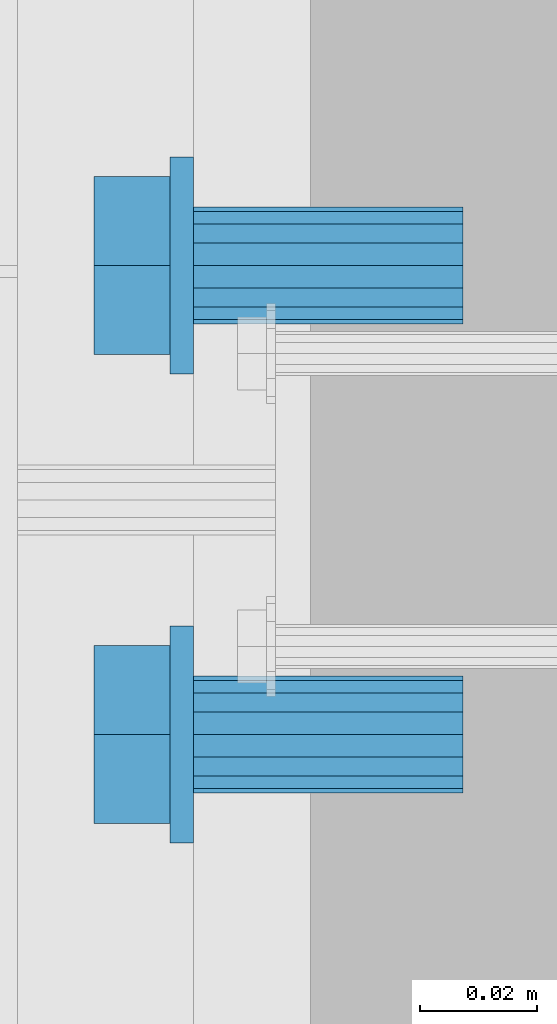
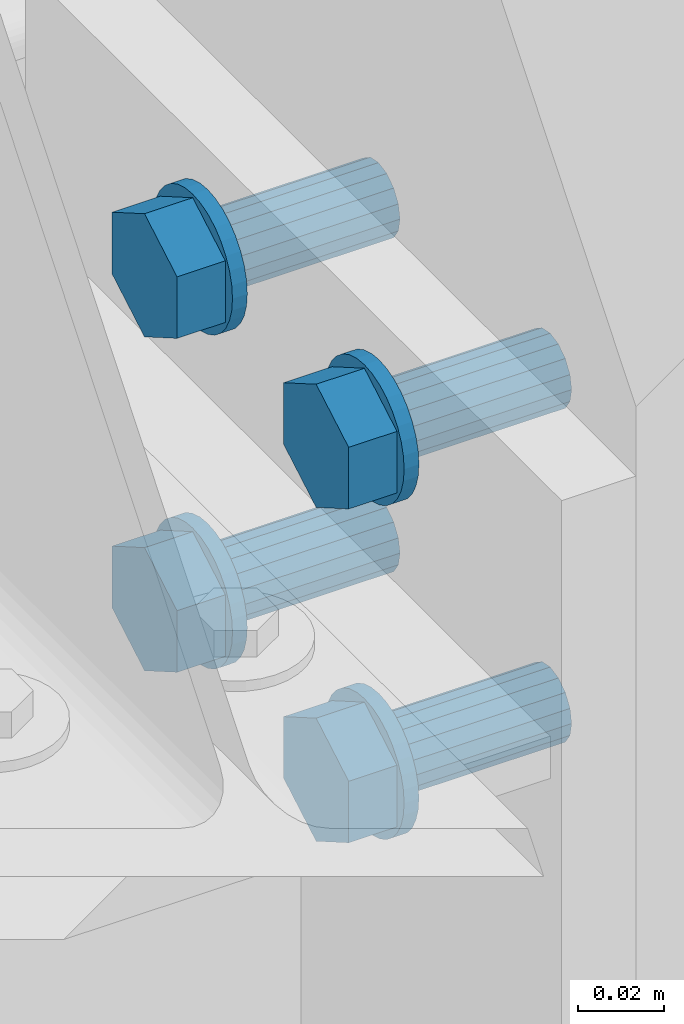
# One storey, part 222 of 410: 4 mechanical fasteners.
"""IFC2X3 building model written with IfcOpenShell, lengths in millimetres."""

from ifc_helpers import new_model, entity, si_unit, converted_unit, origin_with_axes, place, context, project, spatial, faceted_brep, element, save


model = new_model("IFC2X3")

# Units and contexts
model_context = context("Model", 3, precision=1e-09, world=origin_with_axes())
ifc_project = project(units=[si_unit("LENGTHUNIT", "METRE", prefix="MILLI"), si_unit("AREAUNIT", "SQUARE_METRE"), si_unit("VOLUMEUNIT", "CUBIC_METRE"), converted_unit("PLANEANGLEUNIT", "DEGREE", entity("IfcPlaneAngleMeasure", 0.01745329), si_unit("PLANEANGLEUNIT", "RADIAN"), dimensions=[0, 0, 0, 0, 0, 0, 0])], contexts=[model_context])

# Site, building, storey
site_placement = place(None, origin_with_axes())
site = spatial("IfcSite", under=ifc_project, at=site_placement, Name="mKR Teilneubau & Sanierung BA1 - Ostfildern", CompositionType="ELEMENT")
building_placement = place(site_placement, origin_with_axes())
building = spatial("IfcBuilding", under=site, at=building_placement, Name="Struktur 1", CompositionType="ELEMENT")
storey_placement = place(building_placement, origin_with_axes())
storey = spatial("IfcBuildingStorey", under=building, at=storey_placement, Name="Default Storey", CompositionType="ELEMENT", Elevation=0.0)

# Mechanical fasteners
mechanical_fastener_1_placement = place(None, origin_with_axes())
element("IfcMechanicalFastener", 1, at=mechanical_fastener_1_placement, inside=storey, ObjectType="-", NominalDiameter=20.0, NominalLength=50.0, context=model_context, shape_type="Brep", body=[
    faceted_brep([(-1729.0, 17038.5, 7260.0), (-1725.0, 17038.5, 7260.0), (-1725.0, 17038.144527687, 7256.390829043), (-1729.0, 17038.144527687, 7256.390829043), (-1725.0, 17037.091771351, 7252.920356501), (-1729.0, 17037.091771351, 7252.920356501), (-1725.0, 17035.382187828, 7249.721950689), (-1729.0, 17035.382187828, 7249.721950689), (-1725.0, 17033.081475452, 7246.918524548), (-1729.0, 17033.081475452, 7246.918524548), (-1725.0, 17030.278049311, 7244.617812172), (-1729.0, 17030.278049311, 7244.617812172), (-1725.0, 17027.079643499, 7242.908228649), (-1729.0, 17027.079643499, 7242.908228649), (-1725.0, 17023.609170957, 7241.855472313), (-1729.0, 17023.609170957, 7241.855472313), (-1725.0, 17020.0, 7241.5), (-1729.0, 17020.0, 7241.5), (-1725.0, 17016.390829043, 7241.855472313), (-1729.0, 17016.390829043, 7241.855472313), (-1725.0, 17012.920356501, 7242.908228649), (-1729.0, 17012.920356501, 7242.908228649), (-1725.0, 17009.721950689, 7244.617812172), (-1729.0, 17009.721950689, 7244.617812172), (-1725.0, 17006.918524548, 7246.918524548), (-1729.0, 17006.918524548, 7246.918524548), (-1725.0, 17004.617812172, 7249.721950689), (-1729.0, 17004.617812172, 7249.721950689), (-1725.0, 17002.908228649, 7252.920356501), (-1729.0, 17002.908228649, 7252.920356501), (-1725.0, 17001.855472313, 7256.390829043), (-1729.0, 17001.855472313, 7256.390829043), (-1725.0, 17001.5, 7260.0), (-1729.0, 17001.5, 7260.0), (-1725.0, 17001.855472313, 7263.609170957), (-1729.0, 17001.855472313, 7263.609170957), (-1725.0, 17002.908228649, 7267.079643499), (-1729.0, 17002.908228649, 7267.079643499), (-1725.0, 17004.617812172, 7270.278049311), (-1729.0, 17004.617812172, 7270.278049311), (-1725.0, 17006.918524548, 7273.081475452), (-1729.0, 17006.918524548, 7273.081475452), (-1725.0, 17009.721950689, 7275.382187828), (-1729.0, 17009.721950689, 7275.382187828), (-1725.0, 17012.920356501, 7277.091771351), (-1729.0, 17012.920356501, 7277.091771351), (-1725.0, 17016.390829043, 7278.144527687), (-1729.0, 17016.390829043, 7278.144527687), (-1725.0, 17020.0, 7278.5), (-1729.0, 17020.0, 7278.5), (-1725.0, 17023.609170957, 7278.144527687), (-1729.0, 17023.609170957, 7278.144527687), (-1725.0, 17027.079643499, 7277.091771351), (-1729.0, 17027.079643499, 7277.091771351), (-1725.0, 17030.278049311, 7275.382187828), (-1729.0, 17030.278049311, 7275.382187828), (-1725.0, 17033.081475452, 7273.081475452), (-1729.0, 17033.081475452, 7273.081475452), (-1725.0, 17035.382187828, 7270.278049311), (-1729.0, 17035.382187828, 7270.278049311), (-1725.0, 17037.091771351, 7267.079643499), (-1729.0, 17037.091771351, 7267.079643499), (-1725.0, 17038.144527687, 7263.609170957), (-1729.0, 17038.144527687, 7263.609170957)], [[[0, 1, 2, 3]], [[3, 2, 4, 5]], [[5, 4, 6, 7]], [[7, 6, 8, 9]], [[9, 8, 10, 11]], [[11, 10, 12, 13]], [[13, 12, 14, 15]], [[15, 14, 16, 17]], [[17, 16, 18, 19]], [[19, 18, 20, 21]], [[21, 20, 22, 23]], [[23, 22, 24, 25]], [[25, 24, 26, 27]], [[27, 26, 28, 29]], [[29, 28, 30, 31]], [[31, 30, 32, 33]], [[33, 32, 34, 35]], [[35, 34, 36, 37]], [[37, 36, 38, 39]], [[39, 38, 40, 41]], [[41, 40, 42, 43]], [[43, 42, 44, 45]], [[45, 44, 46, 47]], [[47, 46, 48, 49]], [[49, 48, 50, 51]], [[51, 50, 52, 53]], [[53, 52, 54, 55]], [[55, 54, 56, 57]], [[57, 56, 58, 59]], [[59, 58, 60, 61]], [[61, 60, 62, 63]], [[63, 62, 1, 0]], [[0, 3, 5, 7, 9, 11, 13, 15, 17, 19, 21, 23, 25, 27, 29, 31, 33, 35, 37, 39, 41, 43, 45, 47, 49, 51, 53, 55, 57, 59, 61, 63]], [[1, 62, 60, 58, 56, 54, 52, 50, 48, 46, 44, 42, 40, 38, 36, 34, 32, 30, 28, 26, 24, 22, 20, 18, 16, 14, 12, 10, 8, 6, 4, 2]]]),
    faceted_brep([(-1729.0, 17004.831565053, 7251.2425), (-1742.0, 17004.831565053, 7251.2425), (-1742.0, 17020.0, 7242.485), (-1729.0, 17020.0, 7242.485), (-1742.0, 17035.168434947, 7251.2425), (-1729.0, 17035.168434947, 7251.2425), (-1742.0, 17035.168434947, 7268.7575), (-1729.0, 17035.168434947, 7268.7575), (-1742.0, 17020.0, 7277.515), (-1729.0, 17020.0, 7277.515), (-1742.0, 17004.831565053, 7268.7575), (-1729.0, 17004.831565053, 7268.7575)], [[[0, 1, 2, 3]], [[3, 2, 4, 5]], [[5, 4, 6, 7]], [[7, 6, 8, 9]], [[9, 8, 10, 11]], [[11, 10, 1, 0]], [[4, 2, 1, 10, 8, 6]], [[0, 3, 5, 7, 9, 11]]]),
    faceted_brep([(-1725.0, 17030.0, 7260.0), (-1705.0, 17030.0, 7260.0), (-1705.0, 17029.238795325, 7256.173165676), (-1725.0, 17029.238795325, 7256.173165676), (-1705.0, 17027.071067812, 7252.928932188), (-1725.0, 17027.071067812, 7252.928932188), (-1705.0, 17023.826834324, 7250.761204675), (-1725.0, 17023.826834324, 7250.761204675), (-1705.0, 17020.0, 7250.0), (-1725.0, 17020.0, 7250.0), (-1705.0, 17016.173165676, 7250.761204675), (-1725.0, 17016.173165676, 7250.761204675), (-1705.0, 17012.928932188, 7252.928932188), (-1725.0, 17012.928932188, 7252.928932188), (-1705.0, 17010.761204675, 7256.173165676), (-1725.0, 17010.761204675, 7256.173165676), (-1705.0, 17010.0, 7260.0), (-1725.0, 17010.0, 7260.0), (-1705.0, 17010.761204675, 7263.826834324), (-1725.0, 17010.761204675, 7263.826834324), (-1705.0, 17012.928932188, 7267.071067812), (-1725.0, 17012.928932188, 7267.071067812), (-1705.0, 17016.173165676, 7269.238795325), (-1725.0, 17016.173165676, 7269.238795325), (-1705.0, 17020.0, 7270.0), (-1725.0, 17020.0, 7270.0), (-1705.0, 17023.826834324, 7269.238795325), (-1725.0, 17023.826834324, 7269.238795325), (-1705.0, 17027.071067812, 7267.071067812), (-1725.0, 17027.071067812, 7267.071067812), (-1705.0, 17029.238795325, 7263.826834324), (-1725.0, 17029.238795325, 7263.826834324)], [[[0, 1, 2, 3]], [[3, 2, 4, 5]], [[5, 4, 6, 7]], [[7, 6, 8, 9]], [[9, 8, 10, 11]], [[11, 10, 12, 13]], [[13, 12, 14, 15]], [[15, 14, 16, 17]], [[17, 16, 18, 19]], [[19, 18, 20, 21]], [[21, 20, 22, 23]], [[23, 22, 24, 25]], [[25, 24, 26, 27]], [[27, 26, 28, 29]], [[29, 28, 30, 31]], [[31, 30, 1, 0]], [[0, 3, 5, 7, 9, 11, 13, 15, 17, 19, 21, 23, 25, 27, 29, 31]], [[1, 30, 28, 26, 24, 22, 20, 18, 16, 14, 12, 10, 8, 6, 4, 2]]]),
    faceted_brep([(-1705.0, 17030.0, 7260.0), (-1679.0, 17030.0, 7260.0), (-1679.0, 17029.238795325, 7256.173165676), (-1705.0, 17029.238795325, 7256.173165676), (-1679.0, 17027.071067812, 7252.928932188), (-1705.0, 17027.071067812, 7252.928932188), (-1679.0, 17023.826834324, 7250.761204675), (-1705.0, 17023.826834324, 7250.761204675), (-1679.0, 17020.0, 7250.0), (-1705.0, 17020.0, 7250.0), (-1679.0, 17016.173165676, 7250.761204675), (-1705.0, 17016.173165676, 7250.761204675), (-1679.0, 17012.928932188, 7252.928932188), (-1705.0, 17012.928932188, 7252.928932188), (-1679.0, 17010.761204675, 7256.173165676), (-1705.0, 17010.761204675, 7256.173165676), (-1679.0, 17010.0, 7260.0), (-1705.0, 17010.0, 7260.0), (-1679.0, 17010.761204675, 7263.826834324), (-1705.0, 17010.761204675, 7263.826834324), (-1679.0, 17012.928932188, 7267.071067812), (-1705.0, 17012.928932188, 7267.071067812), (-1679.0, 17016.173165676, 7269.238795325), (-1705.0, 17016.173165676, 7269.238795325), (-1679.0, 17020.0, 7270.0), (-1705.0, 17020.0, 7270.0), (-1679.0, 17023.826834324, 7269.238795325), (-1705.0, 17023.826834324, 7269.238795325), (-1679.0, 17027.071067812, 7267.071067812), (-1705.0, 17027.071067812, 7267.071067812), (-1679.0, 17029.238795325, 7263.826834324), (-1705.0, 17029.238795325, 7263.826834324)], [[[0, 1, 2, 3]], [[3, 2, 4, 5]], [[5, 4, 6, 7]], [[7, 6, 8, 9]], [[9, 8, 10, 11]], [[11, 10, 12, 13]], [[13, 12, 14, 15]], [[15, 14, 16, 17]], [[17, 16, 18, 19]], [[19, 18, 20, 21]], [[21, 20, 22, 23]], [[23, 22, 24, 25]], [[25, 24, 26, 27]], [[27, 26, 28, 29]], [[29, 28, 30, 31]], [[31, 30, 1, 0]], [[0, 3, 5, 7, 9, 11, 13, 15, 17, 19, 21, 23, 25, 27, 29, 31]], [[1, 30, 28, 26, 24, 22, 20, 18, 16, 14, 12, 10, 8, 6, 4, 2]]]),
])
mechanical_fastener_2_placement = place(None, origin_with_axes())
element("IfcMechanicalFastener", 2, at=mechanical_fastener_2_placement, inside=storey, ObjectType="-", NominalDiameter=20.0, NominalLength=50.0, context=model_context, shape_type="Brep", body=[
    faceted_brep([(-1729.0, 16958.5, 7260.0), (-1725.0, 16958.5, 7260.0), (-1725.0, 16958.144527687, 7256.390829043), (-1729.0, 16958.144527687, 7256.390829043), (-1725.0, 16957.091771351, 7252.920356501), (-1729.0, 16957.091771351, 7252.920356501), (-1725.0, 16955.382187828, 7249.721950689), (-1729.0, 16955.382187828, 7249.721950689), (-1725.0, 16953.081475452, 7246.918524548), (-1729.0, 16953.081475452, 7246.918524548), (-1725.0, 16950.278049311, 7244.617812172), (-1729.0, 16950.278049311, 7244.617812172), (-1725.0, 16947.079643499, 7242.908228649), (-1729.0, 16947.079643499, 7242.908228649), (-1725.0, 16943.609170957, 7241.855472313), (-1729.0, 16943.609170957, 7241.855472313), (-1725.0, 16940.0, 7241.5), (-1729.0, 16940.0, 7241.5), (-1725.0, 16936.390829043, 7241.855472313), (-1729.0, 16936.390829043, 7241.855472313), (-1725.0, 16932.920356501, 7242.908228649), (-1729.0, 16932.920356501, 7242.908228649), (-1725.0, 16929.721950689, 7244.617812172), (-1729.0, 16929.721950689, 7244.617812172), (-1725.0, 16926.918524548, 7246.918524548), (-1729.0, 16926.918524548, 7246.918524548), (-1725.0, 16924.617812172, 7249.721950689), (-1729.0, 16924.617812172, 7249.721950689), (-1725.0, 16922.908228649, 7252.920356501), (-1729.0, 16922.908228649, 7252.920356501), (-1725.0, 16921.855472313, 7256.390829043), (-1729.0, 16921.855472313, 7256.390829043), (-1725.0, 16921.5, 7260.0), (-1729.0, 16921.5, 7260.0), (-1725.0, 16921.855472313, 7263.609170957), (-1729.0, 16921.855472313, 7263.609170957), (-1725.0, 16922.908228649, 7267.079643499), (-1729.0, 16922.908228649, 7267.079643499), (-1725.0, 16924.617812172, 7270.278049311), (-1729.0, 16924.617812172, 7270.278049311), (-1725.0, 16926.918524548, 7273.081475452), (-1729.0, 16926.918524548, 7273.081475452), (-1725.0, 16929.721950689, 7275.382187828), (-1729.0, 16929.721950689, 7275.382187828), (-1725.0, 16932.920356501, 7277.091771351), (-1729.0, 16932.920356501, 7277.091771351), (-1725.0, 16936.390829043, 7278.144527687), (-1729.0, 16936.390829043, 7278.144527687), (-1725.0, 16940.0, 7278.5), (-1729.0, 16940.0, 7278.5), (-1725.0, 16943.609170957, 7278.144527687), (-1729.0, 16943.609170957, 7278.144527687), (-1725.0, 16947.079643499, 7277.091771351), (-1729.0, 16947.079643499, 7277.091771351), (-1725.0, 16950.278049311, 7275.382187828), (-1729.0, 16950.278049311, 7275.382187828), (-1725.0, 16953.081475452, 7273.081475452), (-1729.0, 16953.081475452, 7273.081475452), (-1725.0, 16955.382187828, 7270.278049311), (-1729.0, 16955.382187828, 7270.278049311), (-1725.0, 16957.091771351, 7267.079643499), (-1729.0, 16957.091771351, 7267.079643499), (-1725.0, 16958.144527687, 7263.609170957), (-1729.0, 16958.144527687, 7263.609170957)], [[[0, 1, 2, 3]], [[3, 2, 4, 5]], [[5, 4, 6, 7]], [[7, 6, 8, 9]], [[9, 8, 10, 11]], [[11, 10, 12, 13]], [[13, 12, 14, 15]], [[15, 14, 16, 17]], [[17, 16, 18, 19]], [[19, 18, 20, 21]], [[21, 20, 22, 23]], [[23, 22, 24, 25]], [[25, 24, 26, 27]], [[27, 26, 28, 29]], [[29, 28, 30, 31]], [[31, 30, 32, 33]], [[33, 32, 34, 35]], [[35, 34, 36, 37]], [[37, 36, 38, 39]], [[39, 38, 40, 41]], [[41, 40, 42, 43]], [[43, 42, 44, 45]], [[45, 44, 46, 47]], [[47, 46, 48, 49]], [[49, 48, 50, 51]], [[51, 50, 52, 53]], [[53, 52, 54, 55]], [[55, 54, 56, 57]], [[57, 56, 58, 59]], [[59, 58, 60, 61]], [[61, 60, 62, 63]], [[63, 62, 1, 0]], [[0, 3, 5, 7, 9, 11, 13, 15, 17, 19, 21, 23, 25, 27, 29, 31, 33, 35, 37, 39, 41, 43, 45, 47, 49, 51, 53, 55, 57, 59, 61, 63]], [[1, 62, 60, 58, 56, 54, 52, 50, 48, 46, 44, 42, 40, 38, 36, 34, 32, 30, 28, 26, 24, 22, 20, 18, 16, 14, 12, 10, 8, 6, 4, 2]]]),
    faceted_brep([(-1729.0, 16924.831565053, 7251.2425), (-1742.0, 16924.831565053, 7251.2425), (-1742.0, 16940.0, 7242.485), (-1729.0, 16940.0, 7242.485), (-1742.0, 16955.168434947, 7251.2425), (-1729.0, 16955.168434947, 7251.2425), (-1742.0, 16955.168434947, 7268.7575), (-1729.0, 16955.168434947, 7268.7575), (-1742.0, 16940.0, 7277.515), (-1729.0, 16940.0, 7277.515), (-1742.0, 16924.831565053, 7268.7575), (-1729.0, 16924.831565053, 7268.7575)], [[[0, 1, 2, 3]], [[3, 2, 4, 5]], [[5, 4, 6, 7]], [[7, 6, 8, 9]], [[9, 8, 10, 11]], [[11, 10, 1, 0]], [[4, 2, 1, 10, 8, 6]], [[0, 3, 5, 7, 9, 11]]]),
    faceted_brep([(-1725.0, 16950.0, 7260.0), (-1705.0, 16950.0, 7260.0), (-1705.0, 16949.238795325, 7256.173165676), (-1725.0, 16949.238795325, 7256.173165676), (-1705.0, 16947.071067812, 7252.928932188), (-1725.0, 16947.071067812, 7252.928932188), (-1705.0, 16943.826834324, 7250.761204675), (-1725.0, 16943.826834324, 7250.761204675), (-1705.0, 16940.0, 7250.0), (-1725.0, 16940.0, 7250.0), (-1705.0, 16936.173165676, 7250.761204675), (-1725.0, 16936.173165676, 7250.761204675), (-1705.0, 16932.928932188, 7252.928932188), (-1725.0, 16932.928932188, 7252.928932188), (-1705.0, 16930.761204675, 7256.173165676), (-1725.0, 16930.761204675, 7256.173165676), (-1705.0, 16930.0, 7260.0), (-1725.0, 16930.0, 7260.0), (-1705.0, 16930.761204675, 7263.826834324), (-1725.0, 16930.761204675, 7263.826834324), (-1705.0, 16932.928932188, 7267.071067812), (-1725.0, 16932.928932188, 7267.071067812), (-1705.0, 16936.173165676, 7269.238795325), (-1725.0, 16936.173165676, 7269.238795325), (-1705.0, 16940.0, 7270.0), (-1725.0, 16940.0, 7270.0), (-1705.0, 16943.826834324, 7269.238795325), (-1725.0, 16943.826834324, 7269.238795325), (-1705.0, 16947.071067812, 7267.071067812), (-1725.0, 16947.071067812, 7267.071067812), (-1705.0, 16949.238795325, 7263.826834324), (-1725.0, 16949.238795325, 7263.826834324)], [[[0, 1, 2, 3]], [[3, 2, 4, 5]], [[5, 4, 6, 7]], [[7, 6, 8, 9]], [[9, 8, 10, 11]], [[11, 10, 12, 13]], [[13, 12, 14, 15]], [[15, 14, 16, 17]], [[17, 16, 18, 19]], [[19, 18, 20, 21]], [[21, 20, 22, 23]], [[23, 22, 24, 25]], [[25, 24, 26, 27]], [[27, 26, 28, 29]], [[29, 28, 30, 31]], [[31, 30, 1, 0]], [[0, 3, 5, 7, 9, 11, 13, 15, 17, 19, 21, 23, 25, 27, 29, 31]], [[1, 30, 28, 26, 24, 22, 20, 18, 16, 14, 12, 10, 8, 6, 4, 2]]]),
    faceted_brep([(-1705.0, 16950.0, 7260.0), (-1679.0, 16950.0, 7260.0), (-1679.0, 16949.238795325, 7256.173165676), (-1705.0, 16949.238795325, 7256.173165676), (-1679.0, 16947.071067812, 7252.928932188), (-1705.0, 16947.071067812, 7252.928932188), (-1679.0, 16943.826834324, 7250.761204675), (-1705.0, 16943.826834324, 7250.761204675), (-1679.0, 16940.0, 7250.0), (-1705.0, 16940.0, 7250.0), (-1679.0, 16936.173165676, 7250.761204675), (-1705.0, 16936.173165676, 7250.761204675), (-1679.0, 16932.928932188, 7252.928932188), (-1705.0, 16932.928932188, 7252.928932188), (-1679.0, 16930.761204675, 7256.173165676), (-1705.0, 16930.761204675, 7256.173165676), (-1679.0, 16930.0, 7260.0), (-1705.0, 16930.0, 7260.0), (-1679.0, 16930.761204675, 7263.826834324), (-1705.0, 16930.761204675, 7263.826834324), (-1679.0, 16932.928932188, 7267.071067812), (-1705.0, 16932.928932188, 7267.071067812), (-1679.0, 16936.173165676, 7269.238795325), (-1705.0, 16936.173165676, 7269.238795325), (-1679.0, 16940.0, 7270.0), (-1705.0, 16940.0, 7270.0), (-1679.0, 16943.826834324, 7269.238795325), (-1705.0, 16943.826834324, 7269.238795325), (-1679.0, 16947.071067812, 7267.071067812), (-1705.0, 16947.071067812, 7267.071067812), (-1679.0, 16949.238795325, 7263.826834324), (-1705.0, 16949.238795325, 7263.826834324)], [[[0, 1, 2, 3]], [[3, 2, 4, 5]], [[5, 4, 6, 7]], [[7, 6, 8, 9]], [[9, 8, 10, 11]], [[11, 10, 12, 13]], [[13, 12, 14, 15]], [[15, 14, 16, 17]], [[17, 16, 18, 19]], [[19, 18, 20, 21]], [[21, 20, 22, 23]], [[23, 22, 24, 25]], [[25, 24, 26, 27]], [[27, 26, 28, 29]], [[29, 28, 30, 31]], [[31, 30, 1, 0]], [[0, 3, 5, 7, 9, 11, 13, 15, 17, 19, 21, 23, 25, 27, 29, 31]], [[1, 30, 28, 26, 24, 22, 20, 18, 16, 14, 12, 10, 8, 6, 4, 2]]]),
])
mechanical_fastener_3_placement = place(None, origin_with_axes())
element("IfcMechanicalFastener", 3, at=mechanical_fastener_3_placement, inside=storey, ObjectType="-", NominalDiameter=20.0, NominalLength=50.0, context=model_context, shape_type="Brep", body=[
    faceted_brep([(-1729.0, 16958.5, 7165.0), (-1725.0, 16958.5, 7165.0), (-1725.0, 16958.144527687, 7161.390829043), (-1729.0, 16958.144527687, 7161.390829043), (-1725.0, 16957.091771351, 7157.920356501), (-1729.0, 16957.091771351, 7157.920356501), (-1725.0, 16955.382187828, 7154.721950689), (-1729.0, 16955.382187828, 7154.721950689), (-1725.0, 16953.081475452, 7151.918524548), (-1729.0, 16953.081475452, 7151.918524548), (-1725.0, 16950.278049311, 7149.617812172), (-1729.0, 16950.278049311, 7149.617812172), (-1725.0, 16947.079643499, 7147.908228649), (-1729.0, 16947.079643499, 7147.908228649), (-1725.0, 16943.609170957, 7146.855472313), (-1729.0, 16943.609170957, 7146.855472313), (-1725.0, 16940.0, 7146.5), (-1729.0, 16940.0, 7146.5), (-1725.0, 16936.390829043, 7146.855472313), (-1729.0, 16936.390829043, 7146.855472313), (-1725.0, 16932.920356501, 7147.908228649), (-1729.0, 16932.920356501, 7147.908228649), (-1725.0, 16929.721950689, 7149.617812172), (-1729.0, 16929.721950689, 7149.617812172), (-1725.0, 16926.918524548, 7151.918524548), (-1729.0, 16926.918524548, 7151.918524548), (-1725.0, 16924.617812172, 7154.721950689), (-1729.0, 16924.617812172, 7154.721950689), (-1725.0, 16922.908228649, 7157.920356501), (-1729.0, 16922.908228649, 7157.920356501), (-1725.0, 16921.855472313, 7161.390829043), (-1729.0, 16921.855472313, 7161.390829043), (-1725.0, 16921.5, 7165.0), (-1729.0, 16921.5, 7165.0), (-1725.0, 16921.855472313, 7168.609170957), (-1729.0, 16921.855472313, 7168.609170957), (-1725.0, 16922.908228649, 7172.079643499), (-1729.0, 16922.908228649, 7172.079643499), (-1725.0, 16924.617812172, 7175.278049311), (-1729.0, 16924.617812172, 7175.278049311), (-1725.0, 16926.918524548, 7178.081475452), (-1729.0, 16926.918524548, 7178.081475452), (-1725.0, 16929.721950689, 7180.382187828), (-1729.0, 16929.721950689, 7180.382187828), (-1725.0, 16932.920356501, 7182.091771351), (-1729.0, 16932.920356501, 7182.091771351), (-1725.0, 16936.390829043, 7183.144527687), (-1729.0, 16936.390829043, 7183.144527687), (-1725.0, 16940.0, 7183.5), (-1729.0, 16940.0, 7183.5), (-1725.0, 16943.609170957, 7183.144527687), (-1729.0, 16943.609170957, 7183.144527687), (-1725.0, 16947.079643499, 7182.091771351), (-1729.0, 16947.079643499, 7182.091771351), (-1725.0, 16950.278049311, 7180.382187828), (-1729.0, 16950.278049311, 7180.382187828), (-1725.0, 16953.081475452, 7178.081475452), (-1729.0, 16953.081475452, 7178.081475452), (-1725.0, 16955.382187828, 7175.278049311), (-1729.0, 16955.382187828, 7175.278049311), (-1725.0, 16957.091771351, 7172.079643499), (-1729.0, 16957.091771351, 7172.079643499), (-1725.0, 16958.144527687, 7168.609170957), (-1729.0, 16958.144527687, 7168.609170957)], [[[0, 1, 2, 3]], [[3, 2, 4, 5]], [[5, 4, 6, 7]], [[7, 6, 8, 9]], [[9, 8, 10, 11]], [[11, 10, 12, 13]], [[13, 12, 14, 15]], [[15, 14, 16, 17]], [[17, 16, 18, 19]], [[19, 18, 20, 21]], [[21, 20, 22, 23]], [[23, 22, 24, 25]], [[25, 24, 26, 27]], [[27, 26, 28, 29]], [[29, 28, 30, 31]], [[31, 30, 32, 33]], [[33, 32, 34, 35]], [[35, 34, 36, 37]], [[37, 36, 38, 39]], [[39, 38, 40, 41]], [[41, 40, 42, 43]], [[43, 42, 44, 45]], [[45, 44, 46, 47]], [[47, 46, 48, 49]], [[49, 48, 50, 51]], [[51, 50, 52, 53]], [[53, 52, 54, 55]], [[55, 54, 56, 57]], [[57, 56, 58, 59]], [[59, 58, 60, 61]], [[61, 60, 62, 63]], [[63, 62, 1, 0]], [[0, 3, 5, 7, 9, 11, 13, 15, 17, 19, 21, 23, 25, 27, 29, 31, 33, 35, 37, 39, 41, 43, 45, 47, 49, 51, 53, 55, 57, 59, 61, 63]], [[1, 62, 60, 58, 56, 54, 52, 50, 48, 46, 44, 42, 40, 38, 36, 34, 32, 30, 28, 26, 24, 22, 20, 18, 16, 14, 12, 10, 8, 6, 4, 2]]]),
    faceted_brep([(-1729.0, 16924.831565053, 7156.2425), (-1742.0, 16924.831565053, 7156.2425), (-1742.0, 16940.0, 7147.485), (-1729.0, 16940.0, 7147.485), (-1742.0, 16955.168434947, 7156.2425), (-1729.0, 16955.168434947, 7156.2425), (-1742.0, 16955.168434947, 7173.7575), (-1729.0, 16955.168434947, 7173.7575), (-1742.0, 16940.0, 7182.515), (-1729.0, 16940.0, 7182.515), (-1742.0, 16924.831565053, 7173.7575), (-1729.0, 16924.831565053, 7173.7575)], [[[0, 1, 2, 3]], [[3, 2, 4, 5]], [[5, 4, 6, 7]], [[7, 6, 8, 9]], [[9, 8, 10, 11]], [[11, 10, 1, 0]], [[4, 2, 1, 10, 8, 6]], [[0, 3, 5, 7, 9, 11]]]),
    faceted_brep([(-1725.0, 16950.0, 7165.0), (-1705.0, 16950.0, 7165.0), (-1705.0, 16949.238795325, 7161.173165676), (-1725.0, 16949.238795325, 7161.173165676), (-1705.0, 16947.071067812, 7157.928932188), (-1725.0, 16947.071067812, 7157.928932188), (-1705.0, 16943.826834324, 7155.761204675), (-1725.0, 16943.826834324, 7155.761204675), (-1705.0, 16940.0, 7155.0), (-1725.0, 16940.0, 7155.0), (-1705.0, 16936.173165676, 7155.761204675), (-1725.0, 16936.173165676, 7155.761204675), (-1705.0, 16932.928932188, 7157.928932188), (-1725.0, 16932.928932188, 7157.928932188), (-1705.0, 16930.761204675, 7161.173165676), (-1725.0, 16930.761204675, 7161.173165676), (-1705.0, 16930.0, 7165.0), (-1725.0, 16930.0, 7165.0), (-1705.0, 16930.761204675, 7168.826834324), (-1725.0, 16930.761204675, 7168.826834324), (-1705.0, 16932.928932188, 7172.071067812), (-1725.0, 16932.928932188, 7172.071067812), (-1705.0, 16936.173165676, 7174.238795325), (-1725.0, 16936.173165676, 7174.238795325), (-1705.0, 16940.0, 7175.0), (-1725.0, 16940.0, 7175.0), (-1705.0, 16943.826834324, 7174.238795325), (-1725.0, 16943.826834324, 7174.238795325), (-1705.0, 16947.071067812, 7172.071067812), (-1725.0, 16947.071067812, 7172.071067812), (-1705.0, 16949.238795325, 7168.826834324), (-1725.0, 16949.238795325, 7168.826834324)], [[[0, 1, 2, 3]], [[3, 2, 4, 5]], [[5, 4, 6, 7]], [[7, 6, 8, 9]], [[9, 8, 10, 11]], [[11, 10, 12, 13]], [[13, 12, 14, 15]], [[15, 14, 16, 17]], [[17, 16, 18, 19]], [[19, 18, 20, 21]], [[21, 20, 22, 23]], [[23, 22, 24, 25]], [[25, 24, 26, 27]], [[27, 26, 28, 29]], [[29, 28, 30, 31]], [[31, 30, 1, 0]], [[0, 3, 5, 7, 9, 11, 13, 15, 17, 19, 21, 23, 25, 27, 29, 31]], [[1, 30, 28, 26, 24, 22, 20, 18, 16, 14, 12, 10, 8, 6, 4, 2]]]),
    faceted_brep([(-1705.0, 16950.0, 7165.0), (-1679.0, 16950.0, 7165.0), (-1679.0, 16949.238795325, 7161.173165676), (-1705.0, 16949.238795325, 7161.173165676), (-1679.0, 16947.071067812, 7157.928932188), (-1705.0, 16947.071067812, 7157.928932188), (-1679.0, 16943.826834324, 7155.761204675), (-1705.0, 16943.826834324, 7155.761204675), (-1679.0, 16940.0, 7155.0), (-1705.0, 16940.0, 7155.0), (-1679.0, 16936.173165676, 7155.761204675), (-1705.0, 16936.173165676, 7155.761204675), (-1679.0, 16932.928932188, 7157.928932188), (-1705.0, 16932.928932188, 7157.928932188), (-1679.0, 16930.761204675, 7161.173165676), (-1705.0, 16930.761204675, 7161.173165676), (-1679.0, 16930.0, 7165.0), (-1705.0, 16930.0, 7165.0), (-1679.0, 16930.761204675, 7168.826834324), (-1705.0, 16930.761204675, 7168.826834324), (-1679.0, 16932.928932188, 7172.071067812), (-1705.0, 16932.928932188, 7172.071067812), (-1679.0, 16936.173165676, 7174.238795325), (-1705.0, 16936.173165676, 7174.238795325), (-1679.0, 16940.0, 7175.0), (-1705.0, 16940.0, 7175.0), (-1679.0, 16943.826834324, 7174.238795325), (-1705.0, 16943.826834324, 7174.238795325), (-1679.0, 16947.071067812, 7172.071067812), (-1705.0, 16947.071067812, 7172.071067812), (-1679.0, 16949.238795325, 7168.826834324), (-1705.0, 16949.238795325, 7168.826834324)], [[[0, 1, 2, 3]], [[3, 2, 4, 5]], [[5, 4, 6, 7]], [[7, 6, 8, 9]], [[9, 8, 10, 11]], [[11, 10, 12, 13]], [[13, 12, 14, 15]], [[15, 14, 16, 17]], [[17, 16, 18, 19]], [[19, 18, 20, 21]], [[21, 20, 22, 23]], [[23, 22, 24, 25]], [[25, 24, 26, 27]], [[27, 26, 28, 29]], [[29, 28, 30, 31]], [[31, 30, 1, 0]], [[0, 3, 5, 7, 9, 11, 13, 15, 17, 19, 21, 23, 25, 27, 29, 31]], [[1, 30, 28, 26, 24, 22, 20, 18, 16, 14, 12, 10, 8, 6, 4, 2]]]),
])
mechanical_fastener_4_placement = place(None, origin_with_axes())
element("IfcMechanicalFastener", 4, at=mechanical_fastener_4_placement, inside=storey, ObjectType="-", NominalDiameter=20.0, NominalLength=50.0, context=model_context, shape_type="Brep", body=[
    faceted_brep([(-1729.0, 17038.5, 7165.0), (-1725.0, 17038.5, 7165.0), (-1725.0, 17038.144527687, 7161.390829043), (-1729.0, 17038.144527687, 7161.390829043), (-1725.0, 17037.091771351, 7157.920356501), (-1729.0, 17037.091771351, 7157.920356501), (-1725.0, 17035.382187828, 7154.721950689), (-1729.0, 17035.382187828, 7154.721950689), (-1725.0, 17033.081475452, 7151.918524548), (-1729.0, 17033.081475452, 7151.918524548), (-1725.0, 17030.278049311, 7149.617812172), (-1729.0, 17030.278049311, 7149.617812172), (-1725.0, 17027.079643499, 7147.908228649), (-1729.0, 17027.079643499, 7147.908228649), (-1725.0, 17023.609170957, 7146.855472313), (-1729.0, 17023.609170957, 7146.855472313), (-1725.0, 17020.0, 7146.5), (-1729.0, 17020.0, 7146.5), (-1725.0, 17016.390829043, 7146.855472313), (-1729.0, 17016.390829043, 7146.855472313), (-1725.0, 17012.920356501, 7147.908228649), (-1729.0, 17012.920356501, 7147.908228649), (-1725.0, 17009.721950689, 7149.617812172), (-1729.0, 17009.721950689, 7149.617812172), (-1725.0, 17006.918524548, 7151.918524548), (-1729.0, 17006.918524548, 7151.918524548), (-1725.0, 17004.617812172, 7154.721950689), (-1729.0, 17004.617812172, 7154.721950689), (-1725.0, 17002.908228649, 7157.920356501), (-1729.0, 17002.908228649, 7157.920356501), (-1725.0, 17001.855472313, 7161.390829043), (-1729.0, 17001.855472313, 7161.390829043), (-1725.0, 17001.5, 7165.0), (-1729.0, 17001.5, 7165.0), (-1725.0, 17001.855472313, 7168.609170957), (-1729.0, 17001.855472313, 7168.609170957), (-1725.0, 17002.908228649, 7172.079643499), (-1729.0, 17002.908228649, 7172.079643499), (-1725.0, 17004.617812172, 7175.278049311), (-1729.0, 17004.617812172, 7175.278049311), (-1725.0, 17006.918524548, 7178.081475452), (-1729.0, 17006.918524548, 7178.081475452), (-1725.0, 17009.721950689, 7180.382187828), (-1729.0, 17009.721950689, 7180.382187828), (-1725.0, 17012.920356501, 7182.091771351), (-1729.0, 17012.920356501, 7182.091771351), (-1725.0, 17016.390829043, 7183.144527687), (-1729.0, 17016.390829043, 7183.144527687), (-1725.0, 17020.0, 7183.5), (-1729.0, 17020.0, 7183.5), (-1725.0, 17023.609170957, 7183.144527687), (-1729.0, 17023.609170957, 7183.144527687), (-1725.0, 17027.079643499, 7182.091771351), (-1729.0, 17027.079643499, 7182.091771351), (-1725.0, 17030.278049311, 7180.382187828), (-1729.0, 17030.278049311, 7180.382187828), (-1725.0, 17033.081475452, 7178.081475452), (-1729.0, 17033.081475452, 7178.081475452), (-1725.0, 17035.382187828, 7175.278049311), (-1729.0, 17035.382187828, 7175.278049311), (-1725.0, 17037.091771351, 7172.079643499), (-1729.0, 17037.091771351, 7172.079643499), (-1725.0, 17038.144527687, 7168.609170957), (-1729.0, 17038.144527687, 7168.609170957)], [[[0, 1, 2, 3]], [[3, 2, 4, 5]], [[5, 4, 6, 7]], [[7, 6, 8, 9]], [[9, 8, 10, 11]], [[11, 10, 12, 13]], [[13, 12, 14, 15]], [[15, 14, 16, 17]], [[17, 16, 18, 19]], [[19, 18, 20, 21]], [[21, 20, 22, 23]], [[23, 22, 24, 25]], [[25, 24, 26, 27]], [[27, 26, 28, 29]], [[29, 28, 30, 31]], [[31, 30, 32, 33]], [[33, 32, 34, 35]], [[35, 34, 36, 37]], [[37, 36, 38, 39]], [[39, 38, 40, 41]], [[41, 40, 42, 43]], [[43, 42, 44, 45]], [[45, 44, 46, 47]], [[47, 46, 48, 49]], [[49, 48, 50, 51]], [[51, 50, 52, 53]], [[53, 52, 54, 55]], [[55, 54, 56, 57]], [[57, 56, 58, 59]], [[59, 58, 60, 61]], [[61, 60, 62, 63]], [[63, 62, 1, 0]], [[0, 3, 5, 7, 9, 11, 13, 15, 17, 19, 21, 23, 25, 27, 29, 31, 33, 35, 37, 39, 41, 43, 45, 47, 49, 51, 53, 55, 57, 59, 61, 63]], [[1, 62, 60, 58, 56, 54, 52, 50, 48, 46, 44, 42, 40, 38, 36, 34, 32, 30, 28, 26, 24, 22, 20, 18, 16, 14, 12, 10, 8, 6, 4, 2]]]),
    faceted_brep([(-1729.0, 17004.831565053, 7156.2425), (-1742.0, 17004.831565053, 7156.2425), (-1742.0, 17020.0, 7147.485), (-1729.0, 17020.0, 7147.485), (-1742.0, 17035.168434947, 7156.2425), (-1729.0, 17035.168434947, 7156.2425), (-1742.0, 17035.168434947, 7173.7575), (-1729.0, 17035.168434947, 7173.7575), (-1742.0, 17020.0, 7182.515), (-1729.0, 17020.0, 7182.515), (-1742.0, 17004.831565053, 7173.7575), (-1729.0, 17004.831565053, 7173.7575)], [[[0, 1, 2, 3]], [[3, 2, 4, 5]], [[5, 4, 6, 7]], [[7, 6, 8, 9]], [[9, 8, 10, 11]], [[11, 10, 1, 0]], [[4, 2, 1, 10, 8, 6]], [[0, 3, 5, 7, 9, 11]]]),
    faceted_brep([(-1725.0, 17030.0, 7165.0), (-1705.0, 17030.0, 7165.0), (-1705.0, 17029.238795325, 7161.173165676), (-1725.0, 17029.238795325, 7161.173165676), (-1705.0, 17027.071067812, 7157.928932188), (-1725.0, 17027.071067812, 7157.928932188), (-1705.0, 17023.826834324, 7155.761204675), (-1725.0, 17023.826834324, 7155.761204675), (-1705.0, 17020.0, 7155.0), (-1725.0, 17020.0, 7155.0), (-1705.0, 17016.173165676, 7155.761204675), (-1725.0, 17016.173165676, 7155.761204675), (-1705.0, 17012.928932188, 7157.928932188), (-1725.0, 17012.928932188, 7157.928932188), (-1705.0, 17010.761204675, 7161.173165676), (-1725.0, 17010.761204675, 7161.173165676), (-1705.0, 17010.0, 7165.0), (-1725.0, 17010.0, 7165.0), (-1705.0, 17010.761204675, 7168.826834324), (-1725.0, 17010.761204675, 7168.826834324), (-1705.0, 17012.928932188, 7172.071067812), (-1725.0, 17012.928932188, 7172.071067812), (-1705.0, 17016.173165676, 7174.238795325), (-1725.0, 17016.173165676, 7174.238795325), (-1705.0, 17020.0, 7175.0), (-1725.0, 17020.0, 7175.0), (-1705.0, 17023.826834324, 7174.238795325), (-1725.0, 17023.826834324, 7174.238795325), (-1705.0, 17027.071067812, 7172.071067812), (-1725.0, 17027.071067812, 7172.071067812), (-1705.0, 17029.238795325, 7168.826834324), (-1725.0, 17029.238795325, 7168.826834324)], [[[0, 1, 2, 3]], [[3, 2, 4, 5]], [[5, 4, 6, 7]], [[7, 6, 8, 9]], [[9, 8, 10, 11]], [[11, 10, 12, 13]], [[13, 12, 14, 15]], [[15, 14, 16, 17]], [[17, 16, 18, 19]], [[19, 18, 20, 21]], [[21, 20, 22, 23]], [[23, 22, 24, 25]], [[25, 24, 26, 27]], [[27, 26, 28, 29]], [[29, 28, 30, 31]], [[31, 30, 1, 0]], [[0, 3, 5, 7, 9, 11, 13, 15, 17, 19, 21, 23, 25, 27, 29, 31]], [[1, 30, 28, 26, 24, 22, 20, 18, 16, 14, 12, 10, 8, 6, 4, 2]]]),
    faceted_brep([(-1705.0, 17030.0, 7165.0), (-1679.0, 17030.0, 7165.0), (-1679.0, 17029.238795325, 7161.173165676), (-1705.0, 17029.238795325, 7161.173165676), (-1679.0, 17027.071067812, 7157.928932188), (-1705.0, 17027.071067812, 7157.928932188), (-1679.0, 17023.826834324, 7155.761204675), (-1705.0, 17023.826834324, 7155.761204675), (-1679.0, 17020.0, 7155.0), (-1705.0, 17020.0, 7155.0), (-1679.0, 17016.173165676, 7155.761204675), (-1705.0, 17016.173165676, 7155.761204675), (-1679.0, 17012.928932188, 7157.928932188), (-1705.0, 17012.928932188, 7157.928932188), (-1679.0, 17010.761204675, 7161.173165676), (-1705.0, 17010.761204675, 7161.173165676), (-1679.0, 17010.0, 7165.0), (-1705.0, 17010.0, 7165.0), (-1679.0, 17010.761204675, 7168.826834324), (-1705.0, 17010.761204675, 7168.826834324), (-1679.0, 17012.928932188, 7172.071067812), (-1705.0, 17012.928932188, 7172.071067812), (-1679.0, 17016.173165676, 7174.238795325), (-1705.0, 17016.173165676, 7174.238795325), (-1679.0, 17020.0, 7175.0), (-1705.0, 17020.0, 7175.0), (-1679.0, 17023.826834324, 7174.238795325), (-1705.0, 17023.826834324, 7174.238795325), (-1679.0, 17027.071067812, 7172.071067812), (-1705.0, 17027.071067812, 7172.071067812), (-1679.0, 17029.238795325, 7168.826834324), (-1705.0, 17029.238795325, 7168.826834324)], [[[0, 1, 2, 3]], [[3, 2, 4, 5]], [[5, 4, 6, 7]], [[7, 6, 8, 9]], [[9, 8, 10, 11]], [[11, 10, 12, 13]], [[13, 12, 14, 15]], [[15, 14, 16, 17]], [[17, 16, 18, 19]], [[19, 18, 20, 21]], [[21, 20, 22, 23]], [[23, 22, 24, 25]], [[25, 24, 26, 27]], [[27, 26, 28, 29]], [[29, 28, 30, 31]], [[31, 30, 1, 0]], [[0, 3, 5, 7, 9, 11, 13, 15, 17, 19, 21, 23, 25, 27, 29, 31]], [[1, 30, 28, 26, 24, 22, 20, 18, 16, 14, 12, 10, 8, 6, 4, 2]]]),
])

save(model, "model.ifc")
